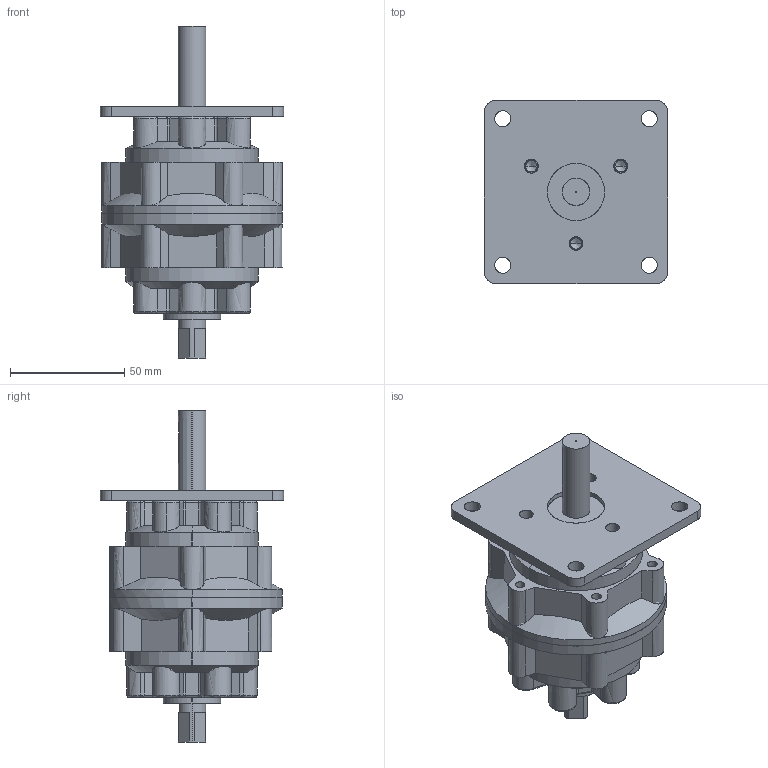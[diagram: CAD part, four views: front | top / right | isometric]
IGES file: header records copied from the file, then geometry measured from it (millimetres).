
Start section: SolidWorks IGES file using analytic representation for surfaces
Global section: file name: C:\Users\Chieh_Lu\Dropbox\¤u§@«Ç\PRN50-150-300-800\PRN50\PRN50\PRN50#-#-#-P.IGS; native system: SolidWorks 2014; preprocessor: SolidWorks 2014; author: Chieh_Lu; date: 160115.003921; units: millimetre
Bounding box: 80 x 80 x 145 mm (x, y, z)
Surface area: 73829.9 mm2 (no closed solid volume)
Topology: 0 solids, 0 shells, 523 faces, 6975 edges, 6947 vertices
Faces by surface type: revolution 281, bspline 242
